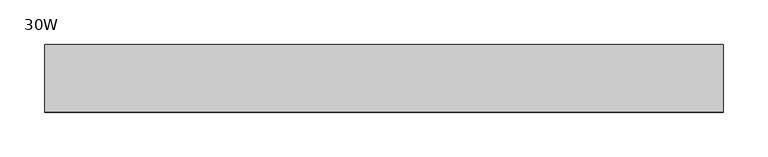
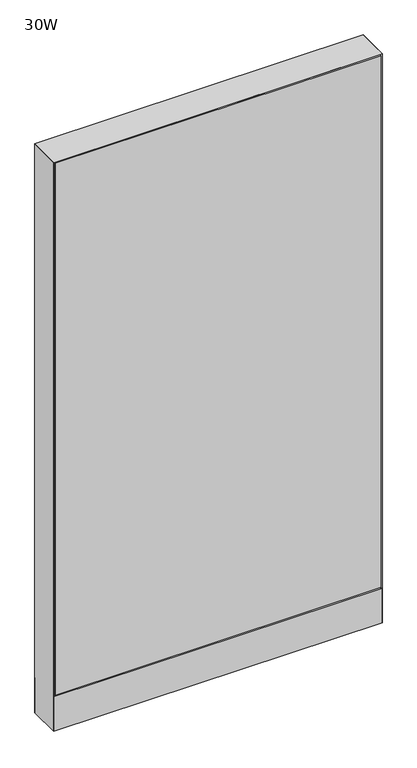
"""IFC4 building model written with IfcOpenShell, lengths in millimetres: furniture geometry, Steelcase - Montage - Frame - 55H - Enhanced Standard - Base Cavity : 30W."""

from ifc_helpers import new_model, si_unit, point, frame, frame_2d, origin, origin_with_axes, place, context, project, spatial, polyline, circle_curve, trimmed, segment, composite_curve, outline, extrude, faceted_brep, source, transform, mapped, element, save


def furniture_30w_7ea12c0a(model_context):
    return source(origin(), model_context, "Body", "SolidModel", [
        extrude(outline(polyline([(3.175, 31.7500194), (3.175, 38.1000194), (758.825, 38.1000194), (758.825, 31.7500194), (3.175, 31.7500194)])), frame((0.0, 0.0, 92.075), z_axis=(0.0, 0.0, 1.0), x_axis=(1.0, 0.0, 0.0)), (0.0, 0.0, 1.0), 1303.3375),
        extrude(outline(polyline([(3.175, -31.7500194), (758.825, -31.7500194), (758.825, -38.1000194), (3.175, -38.1000194), (3.175, -31.7500194)])), frame((0.0, 0.0, 92.075), z_axis=(0.0, 0.0, 1.0), x_axis=(1.0, 0.0, 0.0)), (0.0, 0.0, 1.0), 1303.3375),
        extrude(outline(polyline([(6.350003, -31.7499985), (755.649997, -31.7499985), (762.0, -38.1000015), (0.0, -38.1000015), (6.350003, -31.7499985)])), frame((0.0, 0.0, 4.064), z_axis=(0.0, 0.0, 1.0), x_axis=(1.0, 0.0, 0.0)), (0.0, 0.0, 1.0), 84.835997),
        extrude(outline(polyline([(6.3500002, 31.7500017), (0.0, 38.1000015), (762.0, 38.1000015), (755.6500002, 31.7500017), (6.3500002, 31.7500017)])), frame((0.0, 0.0, 4.064), z_axis=(0.0, 0.0, 1.0), x_axis=(1.0, 0.0, 0.0)), (0.0, 0.0, 1.0), 84.835997),
        faceted_brep([(762.0, -38.1000015, 1398.5875), (0.0, -38.1000015, 1398.5875), (6.3500484, -31.749953, 1392.2374516), (755.6499516, -31.749953, 1392.2374516), (6.3500484, 31.749953, 1392.2374516), (755.6499516, 31.749953, 1392.2374516), (0.0, 38.1000015, 1398.5875), (762.0, 38.1000015, 1398.5875)], [[[0, 1, 2, 3]], [[3, 2, 4, 5]], [[6, 7, 5, 4]], [[1, 0, 7, 6]], [[2, 1, 6, 4]], [[0, 3, 5, 7]]]),
        extrude(outline(composite_curve([segment(trimmed(circle_curve(frame_2d((44.45, 0.0)), 15.24), [point((29.21, 0.0))], [point((59.69, 0.0))], False, "CARTESIAN"), True, "CONTINUOUS"), segment(trimmed(circle_curve(frame_2d((44.45, 0.0)), 15.24), [point((59.69, 0.0))], [point((29.21, 0.0))], False, "CARTESIAN"), True, "CONTINUOUS")], self_intersect=False)), origin_with_axes(), (0.0, 0.0, 1.0), 4.064),
        extrude(outline(composite_curve([segment(trimmed(circle_curve(frame_2d((717.55, 0.0)), 15.24), [point((702.31, 0.0))], [point((732.79, 0.0))], False, "CARTESIAN"), True, "CONTINUOUS"), segment(trimmed(circle_curve(frame_2d((717.55, 0.0)), 15.24), [point((732.79, 0.0))], [point((702.31, 0.0))], False, "CARTESIAN"), True, "CONTINUOUS")], self_intersect=False)), origin_with_axes(), (0.0, 0.0, 1.0), 4.064),
        faceted_brep([(762.0, -38.1000106, 4.064), (762.0, 38.1000015, 4.064), (762.0, 38.1000015, 1398.5875), (762.0, -38.1000106, 1398.5874637), (0.0, 38.1000015, 4.064), (0.0, -38.1000015, 4.064), (0.0, -38.1000015, 1398.5875), (0.0, 38.1000015, 1398.5875), (755.6499879, 31.7500017, 606.425), (6.35, 31.7500017, 606.425), (6.3499998, 31.7500017, 619.125), (755.6499879, 31.7500017, 619.125), (6.35, -31.7499985, 619.125), (755.6499879, -31.7499985, 619.125), (6.350003, -31.7499985, 606.425), (755.6499879, -31.7499985, 606.425), (6.35, 31.7500015, 4.064), (6.35, -31.7500015, 4.064), (755.6499879, 31.7499894, 4.064), (755.6499879, -31.7499985, 4.064), (6.35, 31.7500015, 1392.2375), (6.35, -31.7500015, 1392.2375), (755.6499879, -31.7499985, 1392.2374516), (755.6499879, 31.7499895, 1392.2374516)], [[[0, 1, 2, 3]], [[4, 5, 6, 7]], [[8, 9, 10, 11]], [[11, 10, 12, 13]], [[13, 12, 14, 15]], [[9, 8, 15, 14]], [[16, 17, 5, 4]], [[18, 1, 0, 19]], [[16, 4, 7, 20, 10, 9]], [[5, 17, 14, 12, 21, 6]], [[12, 10, 20, 21]], [[17, 16, 9, 14]], [[11, 13, 22, 23]], [[18, 19, 15, 8]], [[19, 0, 3, 22, 13, 15]], [[1, 18, 8, 11, 23, 2]], [[7, 6, 21, 20]], [[3, 2, 23, 22]]]),
    ])


if __name__ == "__main__":
    model = new_model("IFC4")
    model_context = context("Model", 3, world=origin())
    ifc_project = project(units=[si_unit("LENGTHUNIT", "METRE", prefix="MILLI")], contexts=[model_context])
    site = spatial("IfcSite", under=ifc_project)
    building = spatial("IfcBuilding", under=site)
    placement = place(None, origin())
    furniture_30w_shape = furniture_30w_7ea12c0a(model_context)
    element("IfcFurniture", 1, ObjectType="Steelcase - Montage - Frame - 55H - Enhanced Standard - Base Cavity : 30W", at=placement, inside=building, context=model_context, shape_type="MappedRepresentation", body=[
        mapped(furniture_30w_shape, transform((0.0, 0.0, 0.0), x_axis=(1.0, 0.0, 0.0), y_axis=(0.0, 1.0, 0.0), z_axis=(0.0, 0.0, 1.0))),
    ])
    save(model, "model.ifc")
